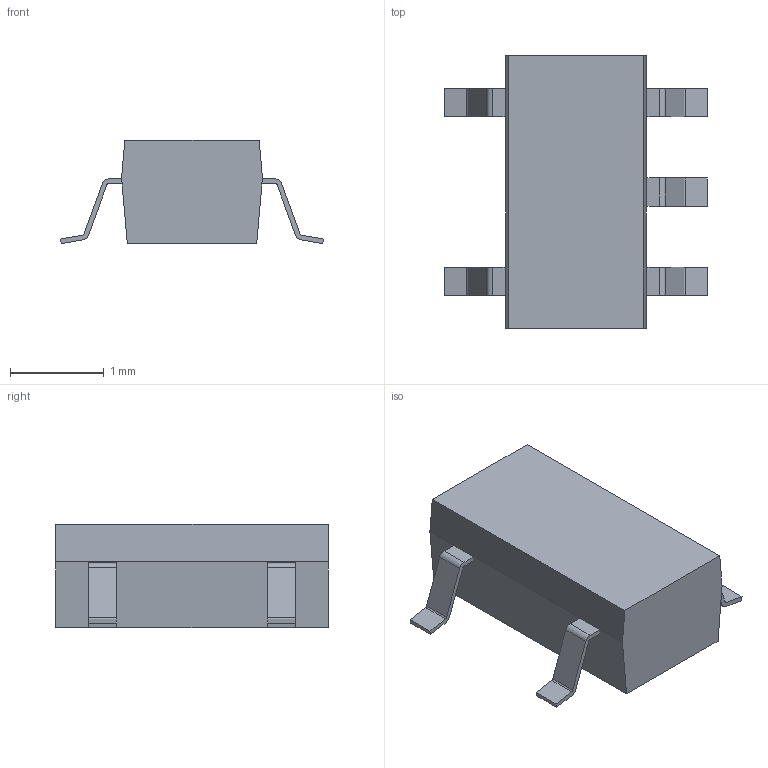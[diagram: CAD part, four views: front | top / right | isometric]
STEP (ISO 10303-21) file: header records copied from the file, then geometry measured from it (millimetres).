
FILE_DESCRIPTION(/* description */ (''),/* implementation_level */ '2;1');
FILE_NAME(/* name */ 'P208_SOT-23-5.stp',/* time_stamp */ '2021-06-02T10:51:28+02:00',/* author */ (''),/* organization */ (''),/* preprocessor_version */ 'ST-DEVELOPER v14',/* originating_system */ 'SIEMENS PLM Software NX 8.0',/* authorisation */ '');
FILE_SCHEMA (('AUTOMOTIVE_DESIGN { 1 0 10303 214 3 1 1 1 }'));
Length unit declared in the file: millimetre
Products named in the file (1): P208_SOT-23-5_body
Bounding box: 2.8 x 2.9 x 1.1 mm (x, y, z)
Volume: 4.8 mm3; surface area: 24.2 mm2
Topology: 3 solids, 3 shells, 72 faces, 198 edges, 132 vertices
Faces by surface type: plane 52, cylinder 20
Entity records: 2317 total; most frequent: CARTESIAN_POINT 403, ORIENTED_EDGE 396, DIRECTION 384, EDGE_CURVE 198, LINE 158, VECTOR 158, VERTEX_POINT 132, AXIS2_PLACEMENT_3D 113
